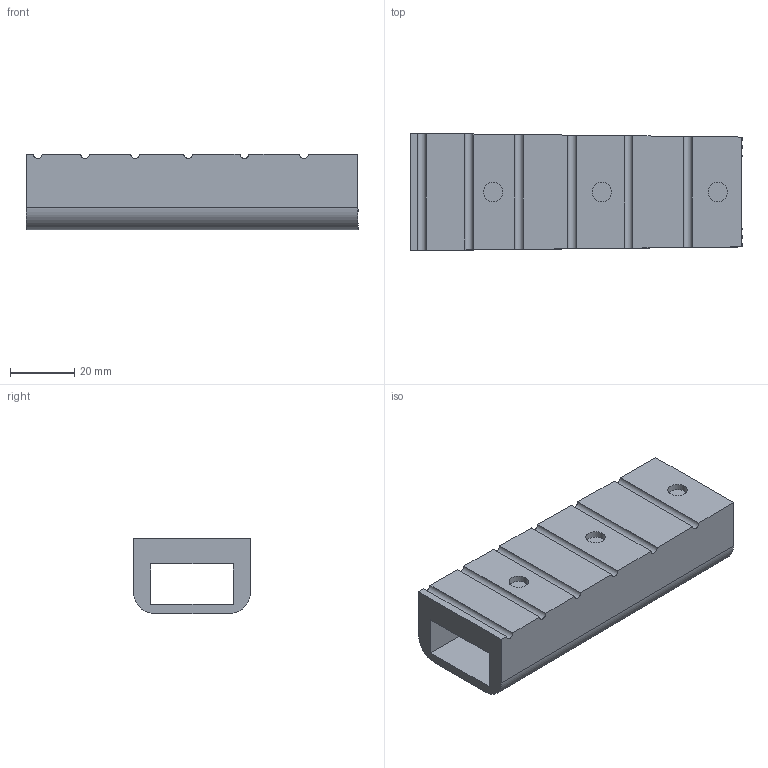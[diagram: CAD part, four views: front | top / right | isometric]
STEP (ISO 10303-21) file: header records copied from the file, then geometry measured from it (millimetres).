
FILE_DESCRIPTION(('STEP AP203'), '1');
FILE_NAME('ëàä 2', '', ('UNSPECIFIED'), ('UNSPECIFIED'), 'ASCON STEP Converter 1.3', 'ASCON Math Kernel', '');
FILE_SCHEMA(('CONFIG_CONTROL_DESIGN'));
Length unit declared in the file: millimetre
Bounding box: 103.13 x 36.45 x 23.5 mm (x, y, z)
Volume: 49305.9 mm3; surface area: 20763.4 mm2
Topology: 1 solids, 1 shells, 30 faces, 75 edges, 50 vertices
Faces by surface type: plane 19, cylinder 11
Full cylindrical faces by diameter (mm): 6 x3
Entity records: 1158 total; most frequent: CARTESIAN_POINT 201, ORIENTED_EDGE 144, DIRECTION 124, EDGE_CURVE 72, VERTEX_POINT 50, LINE 50, VECTOR 50, EDGE_LOOP 38
